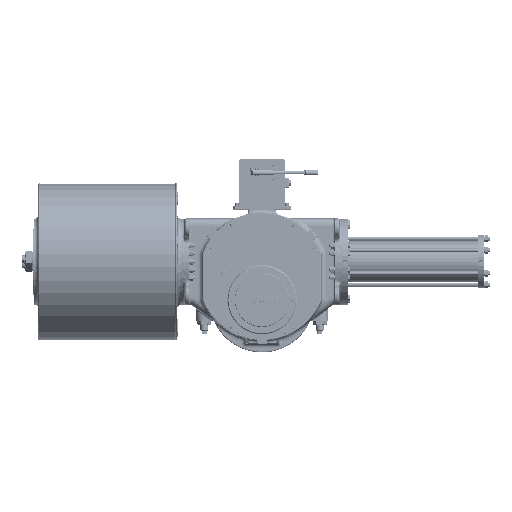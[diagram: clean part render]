
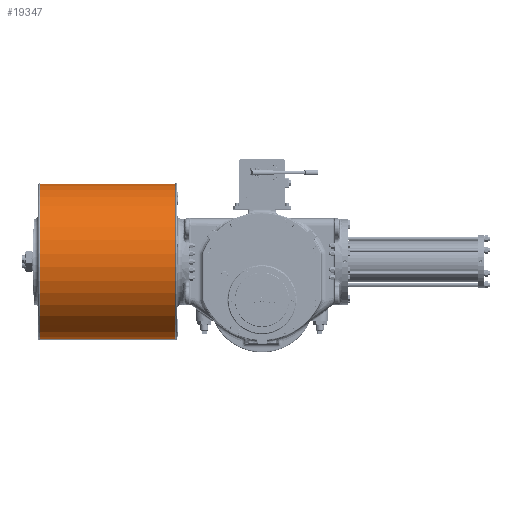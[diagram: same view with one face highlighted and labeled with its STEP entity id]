
A CAD part, top view. The second image highlights one B-rep face of the part: STEP entity #19347.
In plain terms, the highlighted cylindrical face has radius 416 mm (diameter 832 mm), a partial arc.
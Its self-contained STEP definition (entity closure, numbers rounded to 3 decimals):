
#1613 = VECTOR ( 'NONE', #135010, 1000. ) ;
#4058 = CARTESIAN_POINT ( 'NONE',  ( -1181., -210.786, 210.866 ) ) ;
#6280 = DIRECTION ( 'NONE',  ( -1., 0., 0. ) ) ;
#18977 = ORIENTED_EDGE ( 'NONE', *, *, #32907, .F. ) ;
#19347 = ADVANCED_FACE ( 'NONE', ( #150571 ), #98302, .T. ) ;
#29294 = EDGE_CURVE ( 'NONE', #150003, #113529, #137151, .T. ) ;
#30632 = LINE ( 'NONE', #31380, #1613 ) ;
#31380 = CARTESIAN_POINT ( 'NONE',  ( 715.626, -210.786, 210.866 ) ) ;
#32907 = EDGE_CURVE ( 'NONE', #45605, #150003, #30632, .T. ) ;
#39523 = DIRECTION ( 'NONE',  ( -1., 0., 0. ) ) ;
#40871 = CARTESIAN_POINT ( 'NONE',  ( -461., -210.786, 210.866 ) ) ;
#45605 = VERTEX_POINT ( 'NONE', #40871 ) ;
#45623 = AXIS2_PLACEMENT_3D ( 'NONE', #57948, #83413, #142890 ) ;
#49428 = EDGE_CURVE ( 'NONE', #102667, #113529, #113364, .T. ) ;
#54635 = CARTESIAN_POINT ( 'NONE',  ( 715.626, 616.786, 125.134 ) ) ;
#56672 = ORIENTED_EDGE ( 'NONE', *, *, #150256, .T. ) ;
#57948 = CARTESIAN_POINT ( 'NONE',  ( -461., 203., 168. ) ) ;
#60556 = AXIS2_PLACEMENT_3D ( 'NONE', #111465, #6280, #109948 ) ;
#63598 = CARTESIAN_POINT ( 'NONE',  ( -1181., 616.786, 125.134 ) ) ;
#80120 = DIRECTION ( 'NONE',  ( -1., 0., 0. ) ) ;
#83413 = DIRECTION ( 'NONE',  ( -1., 0., 0. ) ) ;
#86224 = VECTOR ( 'NONE', #80120, 1000. ) ;
#95102 = CARTESIAN_POINT ( 'NONE',  ( -461., 616.786, 125.134 ) ) ;
#98302 = CYLINDRICAL_SURFACE ( 'NONE', #101509, 416. ) ;
#100019 = CIRCLE ( 'NONE', #45623, 416. ) ;
#101509 = AXIS2_PLACEMENT_3D ( 'NONE', #111402, #39523, #110639 ) ;
#102667 = VERTEX_POINT ( 'NONE', #95102 ) ;
#109948 = DIRECTION ( 'NONE',  ( 0., -0.995, 0.103 ) ) ;
#110639 = DIRECTION ( 'NONE',  ( 0., -0.995, 0.103 ) ) ;
#111402 = CARTESIAN_POINT ( 'NONE',  ( 715.626, 203., 168. ) ) ;
#111465 = CARTESIAN_POINT ( 'NONE',  ( -1181., 203., 168. ) ) ;
#113364 = LINE ( 'NONE', #54635, #86224 ) ;
#113529 = VERTEX_POINT ( 'NONE', #63598 ) ;
#128760 = ORIENTED_EDGE ( 'NONE', *, *, #29294, .F. ) ;
#134519 = ORIENTED_EDGE ( 'NONE', *, *, #49428, .T. ) ;
#135010 = DIRECTION ( 'NONE',  ( -1., 0., 0. ) ) ;
#137151 = CIRCLE ( 'NONE', #60556, 416. ) ;
#142890 = DIRECTION ( 'NONE',  ( 0., 0.995, -0.103 ) ) ;
#150003 = VERTEX_POINT ( 'NONE', #4058 ) ;
#150249 = EDGE_LOOP ( 'NONE', ( #56672, #134519, #128760, #18977 ) ) ;
#150256 = EDGE_CURVE ( 'NONE', #45605, #102667, #100019, .T. ) ;
#150571 = FACE_OUTER_BOUND ( 'NONE', #150249, .T. ) ;
